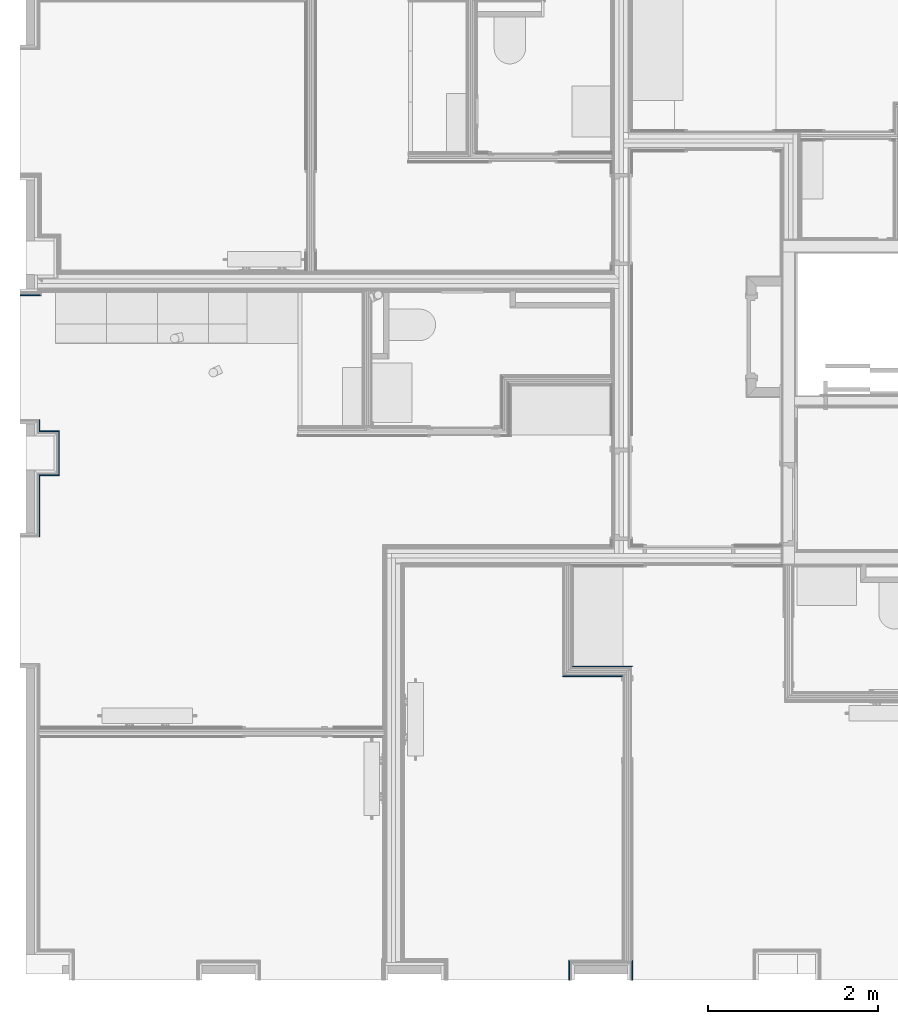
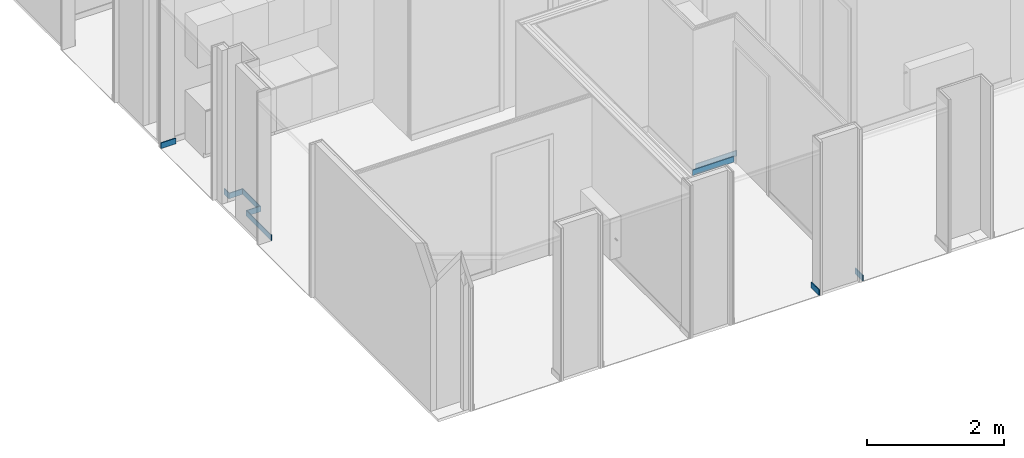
# One storey, part 26 of 85: 10 building element parts, 9 elements without a shape of their own.
"""IFC2X3 building model written with IfcOpenShell, lengths in metres."""

from ifc_helpers import new_model, entity, si_unit, converted_unit, derived_unit, money_unit, direction, frame, origin_with_axes, place, context, subcontext, project, spatial, polyline, outline, extrude, material, type_object, element, aggregate, save


model = new_model("IFC2X3")

# Units and contexts
model_context = context("Model", 3, precision=1e-05, world=origin_with_axes(), true_north=direction((0.0, 1.0)))
body_context = subcontext(model_context, "Body", "Model", "MODEL_VIEW", scale=1.0)
ifc_project = project(units=[si_unit("LENGTHUNIT", "METRE"), si_unit("AREAUNIT", "SQUARE_METRE"), si_unit("VOLUMEUNIT", "CUBIC_METRE"), si_unit("ABSORBEDDOSEUNIT", "GRAY"), si_unit("AMOUNTOFSUBSTANCEUNIT", "MOLE"), si_unit("DOSEEQUIVALENTUNIT", "SIEVERT"), si_unit("ELECTRICCAPACITANCEUNIT", "FARAD"), si_unit("ELECTRICCHARGEUNIT", "COULOMB"), si_unit("ELECTRICCONDUCTANCEUNIT", "SIEMENS"), si_unit("ELECTRICCURRENTUNIT", "AMPERE"), si_unit("ELECTRICRESISTANCEUNIT", "OHM"), si_unit("ELECTRICVOLTAGEUNIT", "VOLT"), si_unit("ENERGYUNIT", "JOULE"), si_unit("FORCEUNIT", "NEWTON"), si_unit("FREQUENCYUNIT", "HERTZ"), si_unit("ILLUMINANCEUNIT", "LUX"), si_unit("INDUCTANCEUNIT", "HENRY"), si_unit("LUMINOUSFLUXUNIT", "LUMEN"), si_unit("LUMINOUSINTENSITYUNIT", "CANDELA"), si_unit("MAGNETICFLUXDENSITYUNIT", "TESLA"), si_unit("MAGNETICFLUXUNIT", "WEBER"), si_unit("MASSUNIT", "GRAM"), converted_unit("PLANEANGLEUNIT", "degree", entity("IfcReal", 0.0174532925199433), si_unit("PLANEANGLEUNIT", "RADIAN"), dimensions=[0, 0, 0, 0, 0, 0, 0]), si_unit("POWERUNIT", "WATT"), si_unit("PRESSUREUNIT", "PASCAL"), si_unit("RADIOACTIVITYUNIT", "BECQUEREL"), si_unit("SOLIDANGLEUNIT", "STERADIAN"), si_unit("THERMODYNAMICTEMPERATUREUNIT", "KELVIN"), si_unit("TIMEUNIT", "SECOND"), derived_unit("ACCELERATIONUNIT", [(si_unit("LENGTHUNIT", "METRE"), 1), (si_unit("TIMEUNIT", "SECOND"), -2)]), derived_unit("ANGULARVELOCITYUNIT", [(converted_unit("PLANEANGLEUNIT", "degree", entity("IfcReal", 0.0174532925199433), si_unit("PLANEANGLEUNIT", "RADIAN"), dimensions=[0, 0, 0, 0, 0, 0, 0]), 1), (si_unit("TIMEUNIT", "SECOND"), -1)]), derived_unit("CURVATUREUNIT", [(converted_unit("PLANEANGLEUNIT", "degree", entity("IfcReal", 0.0174532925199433), si_unit("PLANEANGLEUNIT", "RADIAN"), dimensions=[0, 0, 0, 0, 0, 0, 0]), 1), (si_unit("LENGTHUNIT", "METRE"), -1)]), derived_unit("DYNAMICVISCOSITYUNIT", [(si_unit("PRESSUREUNIT", "PASCAL"), 1), (si_unit("TIMEUNIT", "SECOND"), 1)]), derived_unit("HEATFLUXDENSITYUNIT", [(si_unit("POWERUNIT", "WATT"), 1), (si_unit("LENGTHUNIT", "METRE"), -2)]), derived_unit("HEATINGVALUEUNIT", [(si_unit("ENERGYUNIT", "JOULE"), 1), (si_unit("MASSUNIT", "GRAM"), -1)]), derived_unit("INTEGERCOUNTRATEUNIT", [(si_unit("TIMEUNIT", "SECOND"), -1)]), derived_unit("IONCONCENTRATIONUNIT", [(si_unit("MASSUNIT", "GRAM"), 1), (si_unit("VOLUMEUNIT", "CUBIC_METRE"), -1)]), derived_unit("ISOTHERMALMOISTURECAPACITYUNIT", [(si_unit("VOLUMEUNIT", "CUBIC_METRE"), 1), (si_unit("MASSUNIT", "GRAM"), -1)]), derived_unit("KINEMATICVISCOSITYUNIT", [(si_unit("AREAUNIT", "SQUARE_METRE"), 1), (si_unit("TIMEUNIT", "SECOND"), -1)]), derived_unit("LINEARFORCEUNIT", [(si_unit("FORCEUNIT", "NEWTON"), 1), (si_unit("LENGTHUNIT", "METRE"), -1)]), derived_unit("LINEARMOMENTUNIT", [(si_unit("FORCEUNIT", "NEWTON"), 1), (si_unit("LENGTHUNIT", "METRE"), -1)]), derived_unit("LINEARSTIFFNESSUNIT", [(si_unit("FORCEUNIT", "NEWTON"), 1), (si_unit("LENGTHUNIT", "METRE"), -1)]), derived_unit("LINEARVELOCITYUNIT", [(si_unit("LENGTHUNIT", "METRE"), 1), (si_unit("TIMEUNIT", "SECOND"), -1)]), derived_unit("LUMINOUSINTENSITYDISTRIBUTIONUNIT", [(si_unit("LUMINOUSINTENSITYUNIT", "CANDELA"), 1), (si_unit("LUMINOUSFLUXUNIT", "LUMEN"), -1)]), derived_unit("MASSDENSITYUNIT", [(si_unit("MASSUNIT", "GRAM"), 1), (si_unit("VOLUMEUNIT", "CUBIC_METRE"), -1)]), derived_unit("MASSFLOWRATEUNIT", [(si_unit("MASSUNIT", "GRAM"), 1), (si_unit("TIMEUNIT", "SECOND"), -1)]), derived_unit("MASSPERLENGTHUNIT", [(si_unit("MASSUNIT", "GRAM"), 1), (si_unit("LENGTHUNIT", "METRE"), -1)]), derived_unit("MODULUSOFELASTICITYUNIT", [(si_unit("FORCEUNIT", "NEWTON"), 1), (si_unit("AREAUNIT", "SQUARE_METRE"), -1)]), derived_unit("MODULUSOFLINEARSUBGRADEREACTIONUNIT", [(si_unit("FORCEUNIT", "NEWTON"), 1), (si_unit("LENGTHUNIT", "METRE"), -2)]), derived_unit("MODULUSOFROTATIONALSUBGRADEREACTIONUNIT", [(si_unit("FORCEUNIT", "NEWTON"), 1), (si_unit("LENGTHUNIT", "METRE"), 1)]), derived_unit("MODULUSOFSUBGRADEREACTIONUNIT", [(si_unit("FORCEUNIT", "NEWTON"), 1), (si_unit("VOLUMEUNIT", "CUBIC_METRE"), -1)]), derived_unit("MOISTUREDIFFUSIVITYUNIT", [(si_unit("VOLUMEUNIT", "CUBIC_METRE"), 1), (si_unit("TIMEUNIT", "SECOND"), -1)]), derived_unit("MOLECULARWEIGHTUNIT", [(si_unit("MASSUNIT", "GRAM"), 1), (si_unit("AMOUNTOFSUBSTANCEUNIT", "MOLE"), -1)]), derived_unit("PLANARFORCEUNIT", [(si_unit("FORCEUNIT", "NEWTON"), 1), (si_unit("LENGTHUNIT", "METRE"), -2)]), derived_unit("ROTATIONALFREQUENCYUNIT", [(si_unit("TIMEUNIT", "SECOND"), -1)]), derived_unit("ROTATIONALMASSUNIT", [(si_unit("MASSUNIT", "GRAM"), 1), (si_unit("LENGTHUNIT", "METRE"), 2)]), derived_unit("ROTATIONALSTIFFNESSUNIT", [(si_unit("FORCEUNIT", "NEWTON"), 1), (si_unit("LENGTHUNIT", "METRE"), 1), (converted_unit("PLANEANGLEUNIT", "degree", entity("IfcReal", 0.0174532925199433), si_unit("PLANEANGLEUNIT", "RADIAN"), dimensions=[0, 0, 0, 0, 0, 0, 0]), -1)]), derived_unit("SECTIONAREAINTEGRALUNIT", [(si_unit("LENGTHUNIT", "METRE"), 5)]), derived_unit("SECTIONMODULUSUNIT", [(si_unit("LENGTHUNIT", "METRE"), 3)]), derived_unit("SHEARMODULUSUNIT", [(si_unit("FORCEUNIT", "NEWTON"), 1), (si_unit("AREAUNIT", "SQUARE_METRE"), -1)]), derived_unit("SOUNDPOWERUNIT", [(si_unit("ENERGYUNIT", "JOULE"), 1), (si_unit("TIMEUNIT", "SECOND"), -1)]), derived_unit("SPECIFICHEATCAPACITYUNIT", [(si_unit("FORCEUNIT", "NEWTON"), 1), (si_unit("MASSUNIT", "GRAM"), -1), (si_unit("THERMODYNAMICTEMPERATUREUNIT", "KELVIN"), -1)]), derived_unit("TEMPERATUREGRADIENTUNIT", [(si_unit("THERMODYNAMICTEMPERATUREUNIT", "KELVIN"), 1), (si_unit("LENGTHUNIT", "METRE"), -1)]), derived_unit("THERMALADMITTANCEUNIT", [(si_unit("POWERUNIT", "WATT"), 1), (si_unit("AREAUNIT", "SQUARE_METRE"), -1), (si_unit("THERMODYNAMICTEMPERATUREUNIT", "KELVIN"), -1)]), derived_unit("THERMALCONDUCTANCEUNIT", [(si_unit("POWERUNIT", "WATT"), 1), (si_unit("LENGTHUNIT", "METRE"), -1), (si_unit("THERMODYNAMICTEMPERATUREUNIT", "KELVIN"), -1)]), derived_unit("THERMALEXPANSIONCOEFFICIENTUNIT", [(si_unit("THERMODYNAMICTEMPERATUREUNIT", "KELVIN"), -1)]), derived_unit("THERMALRESISTANCEUNIT", [(si_unit("AREAUNIT", "SQUARE_METRE"), 1), (si_unit("POWERUNIT", "WATT"), -1)]), derived_unit("THERMALTRANSMITTANCEUNIT", [(si_unit("POWERUNIT", "WATT"), 1), (si_unit("AREAUNIT", "SQUARE_METRE"), -1), (si_unit("THERMODYNAMICTEMPERATUREUNIT", "KELVIN"), -1)]), derived_unit("TORQUEUNIT", [(si_unit("FORCEUNIT", "NEWTON"), 1), (si_unit("LENGTHUNIT", "METRE"), 1)]), derived_unit("VAPORPERMEABILITYUNIT", [(si_unit("MASSUNIT", "GRAM"), 1), (si_unit("TIMEUNIT", "SECOND"), -1)]), derived_unit("VOLUMETRICFLOWRATEUNIT", [(si_unit("VOLUMEUNIT", "CUBIC_METRE"), 1), (si_unit("TIMEUNIT", "SECOND"), -1)]), derived_unit("WARPINGCONSTANTUNIT", [(si_unit("LENGTHUNIT", "METRE"), 6)]), derived_unit("WARPINGMOMENTUNIT", [(si_unit("FORCEUNIT", "NEWTON"), 1), (si_unit("LENGTHUNIT", "METRE"), 2)]), money_unit("GBP")], contexts=[model_context])

# Site, building, storey
site_placement = place(None, origin_with_axes())
site = spatial("IfcSite", under=ifc_project, at=site_placement, Name="Site", CompositionType="ELEMENT")
building_placement = place(site_placement, origin_with_axes())
building = spatial("IfcBuilding", under=site, at=building_placement, Name="Building01", CompositionType="ELEMENT")
storey_placement = place(building_placement, frame((0.0, 0.0, 12.13), z_axis=(0.0, 0.0, 1.0), x_axis=(1.0, 0.0, 0.0)))
storey = spatial("IfcBuildingStorey", under=building, at=storey_placement, Name="3F", CompositionType="ELEMENT", Elevation=12.13)

# Wall, building element part
wall_type_1 = type_object("IfcWallType", Name="SHE_A-Walls_Type06d_ExternalWallInsulation_48mm", PredefinedType="NOTDEFINED")
wall_1_placement = place(storey_placement, frame((0.27, 6.64418, 0.0), z_axis=(0.0, 0.0, 1.0), x_axis=(0.0, -1.0, 0.0)))
wall_1 = element("IfcWall", 1, at=wall_1_placement, inside=storey, type_object=wall_type_1, Name="6D", ObjectType="SHE_A-Walls_Type06d_ExternalWallInsulation_48mm")
ifc_material = material(Name="A_BSUK_Walls_Timber")
building_element_part_1_placement = place(wall_1_placement, origin_with_axes())
building_element_part_1 = element("IfcBuildingElementPart", 2, at=building_element_part_1_placement, material=ifc_material, Name="3", context=body_context, shape_type="SweptSolid", body=[
    extrude(outline(polyline([(0.08118, 0.063), (-0.048, 0.063), (-0.048, 0.048), (0.09618, 0.048), (0.08118, 0.063)])), frame((0.0, 0.0, 0.015), z_axis=(0.0, 0.0, 1.0), x_axis=(1.0, 0.0, 0.0)), (0.0, 0.0, 1.0), 0.1),
])
aggregate(wall_1, [building_element_part_1])

wall_2_placement = place(storey_placement, frame((0.27, 6.5, 0.0), z_axis=(0.0, 0.0, 1.0), x_axis=(1.0, 0.0, 0.0)))
wall_2 = element("IfcWall", 3, at=wall_2_placement, inside=storey, type_object=wall_type_1, Name="6D", ObjectType="SHE_A-Walls_Type06d_ExternalWallInsulation_48mm")
building_element_part_2_placement = place(wall_2_placement, origin_with_axes())
building_element_part_2 = element("IfcBuildingElementPart", 4, at=building_element_part_2_placement, material=ifc_material, Name="3", context=body_context, shape_type="SweptSolid", body=[
    extrude(outline(polyline([(0.293, 0.063), (0.063, 0.063), (0.048, 0.048), (0.278, 0.048), (0.293, 0.063)])), frame((0.0, 0.0, 0.015), z_axis=(0.0, 0.0, 1.0), x_axis=(1.0, 0.0, 0.0)), (0.0, 0.0, 1.0), 0.1),
])
aggregate(wall_2, [building_element_part_2])

wall_3_placement = place(storey_placement, frame((0.5, 6.5, 0.0), z_axis=(0.0, 0.0, 1.0), x_axis=(0.0, -1.0, 0.0)))
wall_3 = element("IfcWall", 5, at=wall_3_placement, inside=storey, type_object=wall_type_1, Name="6D", ObjectType="SHE_A-Walls_Type06d_ExternalWallInsulation_48mm")
building_element_part_3_placement = place(wall_3_placement, origin_with_axes())
building_element_part_3 = element("IfcBuildingElementPart", 6, at=building_element_part_3_placement, material=ifc_material, Name="3", context=body_context, shape_type="SweptSolid", body=[
    extrude(outline(polyline([(0.463, 0.063), (-0.063, 0.063), (-0.048, 0.048), (0.448, 0.048), (0.463, 0.063)])), frame((0.0, 0.0, 0.015), z_axis=(0.0, 0.0, 1.0), x_axis=(1.0, 0.0, 0.0)), (0.0, 0.0, 1.0), 0.1),
])
aggregate(wall_3, [building_element_part_3])

wall_4_placement = place(storey_placement, frame((0.5, 6.1, 0.0), z_axis=(0.0, 0.0, 1.0), x_axis=(-1.0, 0.0, 0.0)))
wall_4 = element("IfcWall", 7, at=wall_4_placement, inside=storey, type_object=wall_type_1, Name="6D", ObjectType="SHE_A-Walls_Type06d_ExternalWallInsulation_48mm")
building_element_part_4_placement = place(wall_4_placement, origin_with_axes())
building_element_part_4 = element("IfcBuildingElementPart", 8, at=building_element_part_4_placement, material=ifc_material, Name="3", context=body_context, shape_type="SweptSolid", body=[
    extrude(outline(polyline([(0.167, 0.063), (-0.063, 0.063), (-0.048, 0.048), (0.182, 0.048), (0.167, 0.063)])), frame((0.0, 0.0, 0.015), z_axis=(0.0, 0.0, 1.0), x_axis=(1.0, 0.0, 0.0)), (0.0, 0.0, 1.0), 0.1),
])
aggregate(wall_4, [building_element_part_4])

wall_5_placement = place(storey_placement, frame((0.27, 6.1, 0.0), z_axis=(0.0, 0.0, 1.0), x_axis=(0.0, -1.0, 0.0)))
wall_5 = element("IfcWall", 9, at=wall_5_placement, inside=storey, type_object=wall_type_1, Name="6D", ObjectType="SHE_A-Walls_Type06d_ExternalWallInsulation_48mm")
building_element_part_5_placement = place(wall_5_placement, origin_with_axes())
building_element_part_5 = element("IfcBuildingElementPart", 10, at=building_element_part_5_placement, material=ifc_material, Name="3", context=body_context, shape_type="SweptSolid", body=[
    extrude(outline(polyline([(0.063, 0.063), (0.048, 0.048), (0.785, 0.048), (0.785, 0.063), (0.063, 0.063)])), frame((0.0, 0.0, 0.015), z_axis=(0.0, 0.0, 1.0), x_axis=(1.0, 0.0, 0.0)), (0.0, 0.0, 1.0), 0.1),
])
aggregate(wall_5, [building_element_part_5])

wall_6_placement = place(storey_placement, frame((6.623, 0.1, 0.0), z_axis=(0.0, 0.0, 1.0), x_axis=(0.0, 1.0, 0.0)))
wall_6 = element("IfcWall", 11, at=wall_6_placement, inside=storey, type_object=wall_type_1, Name="6D", ObjectType="SHE_A-Walls_Type06d_ExternalWallInsulation_48mm")
building_element_part_6_placement = place(wall_6_placement, origin_with_axes())
building_element_part_6 = element("IfcBuildingElementPart", 12, at=building_element_part_6_placement, material=ifc_material, Name="3", context=body_context, shape_type="SweptSolid", body=[
    extrude(outline(polyline([(0.233, 0.063), (0.0, 0.063), (0.0, 0.048), (0.218, 0.048), (0.233, 0.063)])), frame((0.0, 0.0, 0.015), z_axis=(0.0, 0.0, 1.0), x_axis=(1.0, 0.0, 0.0)), (0.0, 0.0, 1.0), 0.1),
])
aggregate(wall_6, [building_element_part_6])

wall_7_placement = place(storey_placement, frame((7.247, 0.27, 0.0), z_axis=(0.0, 0.0, 1.0), x_axis=(0.0, -1.0, 0.0)))
wall_7 = element("IfcWall", 13, at=wall_7_placement, inside=storey, type_object=wall_type_1, Name="6D", ObjectType="SHE_A-Walls_Type06d_ExternalWallInsulation_48mm")
building_element_part_7_placement = place(wall_7_placement, origin_with_axes())
building_element_part_7 = element("IfcBuildingElementPart", 14, at=building_element_part_7_placement, material=ifc_material, Name="3", context=body_context, shape_type="SweptSolid", body=[
    extrude(outline(polyline([(-0.063, 0.063), (-0.048, 0.048), (0.17, 0.048), (0.17, 0.063), (-0.063, 0.063)])), frame((0.0, 0.0, 0.015), z_axis=(0.0, 0.0, 1.0), x_axis=(1.0, 0.0, 0.0)), (0.0, 0.0, 1.0), 0.1),
])
aggregate(wall_7, [building_element_part_7])

# Wall, building element parts
wall_type_2 = type_object("IfcWallType", Name="SHE_A-Walls_Type05a_Partition_95mm_tall", PredefinedType="NOTDEFINED")
wall_8_placement = place(storey_placement, frame((7.235, 3.72, 0.0), z_axis=(0.0, 0.0, 1.0), x_axis=(-1.0, 0.0, 0.0)))
wall_8 = element("IfcWall", 15, at=wall_8_placement, inside=storey, type_object=wall_type_2, Name="5A", ObjectType="SHE_A-Walls_Type05a_Partition_95mm_tall")
placement = place(wall_8_placement, origin_with_axes())
building_element_part_8 = element("IfcBuildingElementPart", 16, at=placement, material=ifc_material, Name="1", context=body_context, shape_type="SweptSolid", body=[
    extrude(outline(polyline([(0.64, -0.06), (-0.06, -0.06), (-0.075, -0.075), (0.625, -0.075), (0.64, -0.06)])), frame((0.0, 0.0, 0.015), z_axis=(0.0, 0.0, 1.0), x_axis=(1.0, 0.0, 0.0)), (0.0, 0.0, 1.0), 0.1),
])
building_element_part_9 = element("IfcBuildingElementPart", 17, at=placement, material=ifc_material, Name="7", context=body_context, shape_type="SweptSolid", body=[
    extrude(outline(polyline([(0.75, 0.05), (0.05, 0.05), (0.035, 0.035), (0.735, 0.035), (0.75, 0.05)])), frame((0.0, 0.0, 0.015), z_axis=(0.0, 0.0, 1.0), x_axis=(1.0, 0.0, 0.0)), (0.0, 0.0, 1.0), 0.1),
])
aggregate(wall_8, [building_element_part_8, building_element_part_9])

# Wall, building element part
wall_type_3 = type_object("IfcWallType", Name="SHE_A-Walls_Type06f_ExternalWallInsulation_48+15mm", PredefinedType="NOTDEFINED")
wall_9_placement = place(storey_placement, frame((0.1, 8.233, 0.0), z_axis=(0.0, 0.0, 1.0), x_axis=(1.0, 0.0, 0.0)))
wall_9 = element("IfcWall", 18, at=wall_9_placement, inside=storey, type_object=wall_type_3, Name="6F", ObjectType="SHE_A-Walls_Type06f_ExternalWallInsulation_48+15mm")
building_element_part_10_placement = place(wall_9_placement, origin_with_axes())
building_element_part_10 = element("IfcBuildingElementPart", 19, at=building_element_part_10_placement, material=ifc_material, Name="1", context=body_context, shape_type="SweptSolid", body=[
    extrude(outline(polyline([(0.233, -0.063), (0.0, -0.063), (0.0, -0.078), (0.248, -0.078), (0.233, -0.063)])), frame((0.0, 0.0, 0.015), z_axis=(0.0, 0.0, 1.0), x_axis=(1.0, 0.0, 0.0)), (0.0, 0.0, 1.0), 0.1),
])
aggregate(wall_9, [building_element_part_10])

save(model, "model.ifc")
